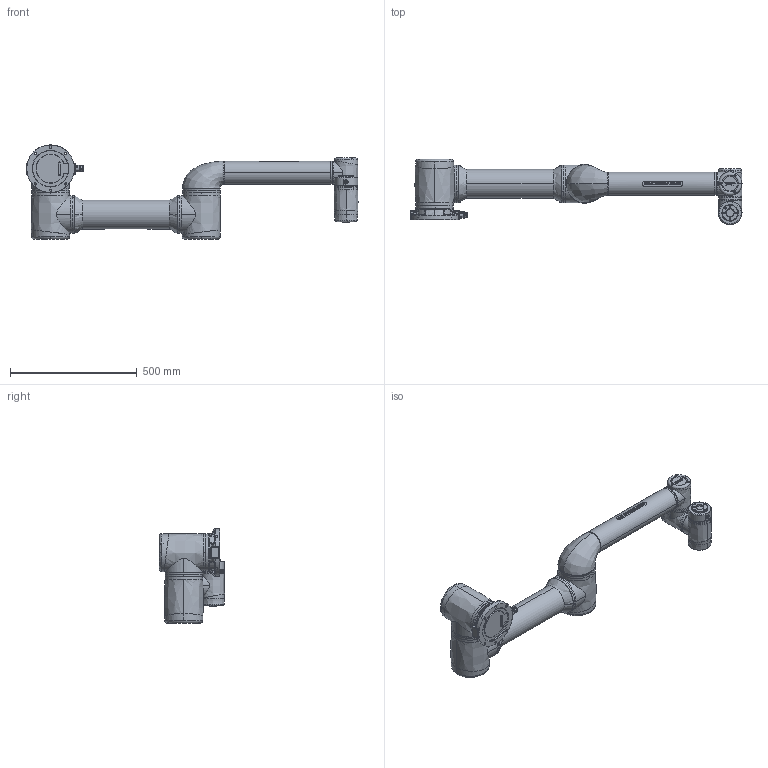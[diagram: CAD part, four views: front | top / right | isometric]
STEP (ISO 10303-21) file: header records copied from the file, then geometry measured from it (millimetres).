
FILE_DESCRIPTION (( 'STEP AP214' ), '1' );
FILE_NAME ('Pro 12.STEP', '2025-10-16T03:09:31', ( '' ), ( '' ), 'SwSTEP 2.0', 'SolidWorks 2024', '' );
FILE_SCHEMA (( 'AUTOMOTIVE_DESIGN' ));
Length unit declared in the file: millimetre
Products named in the file (8): Pro 12 06; Pro 12 04; Pro 12; Pro 12 05; Pro 12 00; Pro 12 01; Pro 12 02; Pro 12 03
Assembly tree (7 placements, depth 2):
  Pro 12
    Pro 12 00
    Pro 12 01
    Pro 12 02
    Pro 12 03
    Pro 12 04
    Pro 12 05
    Pro 12 06
Bounding box: 1310.68 x 257.9 x 372.15 mm (x, y, z)
Volume: 24304517.3 mm3; surface area: 1225769.9 mm2
Topology: 16 solids, 43 shells, 1989 faces, 5115 edges, 3351 vertices
Faces by surface type: plane 1019, cylinder 484, bspline 323, torus 99, cone 64
Entity records: 94472 total; most frequent: CARTESIAN_POINT 43165, ORIENTED_EDGE 10140, DIRECTION 8748, EDGE_CURVE 5070, VERTEX_POINT 3352, AXIS2_PLACEMENT_3D 2985, LINE 2778, VECTOR 2778
